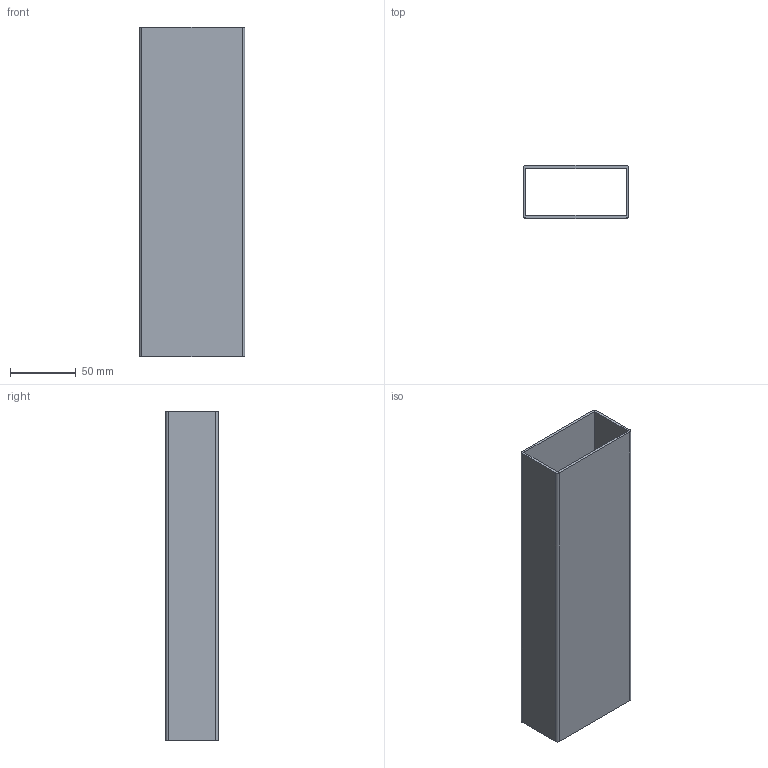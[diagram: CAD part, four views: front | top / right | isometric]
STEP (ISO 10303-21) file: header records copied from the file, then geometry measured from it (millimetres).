
FILE_DESCRIPTION(/* description */ ('FYRKANTSRÖR 40X80'),/* implementation_level */ '2;1');
FILE_NAME(/* name */ '500-1020-01.stp',/* time_stamp */ '2022-09-16T07:34:56+02:00',/* author */ ('MD'),/* organization */ ('CARRYLINE'),/* preprocessor_version */ 'ST-DEVELOPER v19.2',/* originating_system */ 'Autodesk Inventor 2023',/* authorisation */ '');
FILE_SCHEMA (('AUTOMOTIVE_DESIGN { 1 0 10303 214 3 1 1 }'));
Length unit declared in the file: millimetre
Products named in the file (1): 500-1020-01
Bounding box: 80 x 40 x 250 mm (x, y, z)
Volume: 115141.6 mm3; surface area: 116062.7 mm2
Topology: 1 solids, 1 shells, 14 faces, 36 edges, 24 vertices
Faces by surface type: plane 10, cylinder 4
Entity records: 475 total; most frequent: CARTESIAN_POINT 75, DIRECTION 74, ORIENTED_EDGE 72, EDGE_CURVE 36, LINE 28, VECTOR 28, VERTEX_POINT 24, AXIS2_PLACEMENT_3D 23
